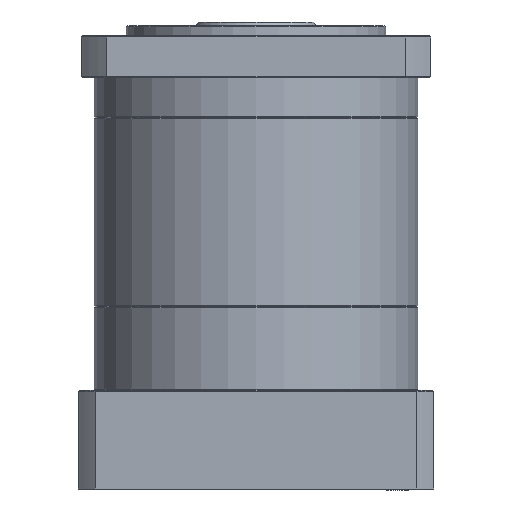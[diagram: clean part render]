
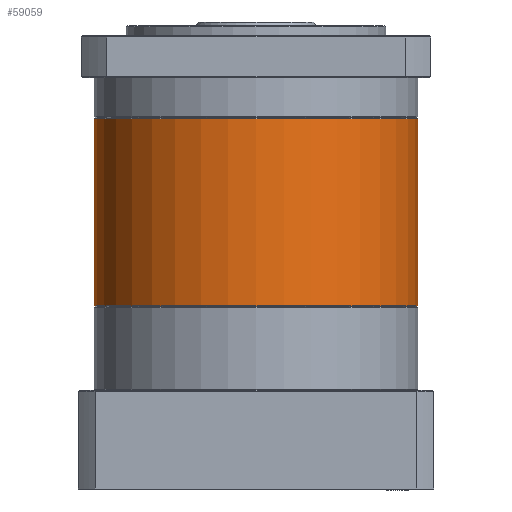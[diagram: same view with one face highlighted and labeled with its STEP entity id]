
A CAD part, front view. The second image highlights one B-rep face of the part: STEP entity #59059.
In plain terms, the highlighted cylindrical face has radius 81 mm (diameter 162 mm), a partial arc.
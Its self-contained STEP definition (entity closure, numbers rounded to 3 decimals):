
#1769 = CARTESIAN_POINT ( 'NONE',  ( 277.446, 56.633, 115.988 ) ) ;
#2444 = ORIENTED_EDGE ( 'NONE', *, *, #84965, .T. ) ;
#3225 = LINE ( 'NONE', #19636, #12246 ) ;
#3460 = CARTESIAN_POINT ( 'NONE',  ( 196.446, 56.633, 22.488 ) ) ;
#3782 = DIRECTION ( 'NONE',  ( 1., 0., 0. ) ) ;
#5190 = DIRECTION ( 'NONE',  ( 1., 0., 0. ) ) ;
#5354 = EDGE_CURVE ( 'NONE', #35512, #59551, #3225, .T. ) ;
#6204 = CARTESIAN_POINT ( 'NONE',  ( 277.446, 56.633, 21.988 ) ) ;
#7292 = AXIS2_PLACEMENT_3D ( 'NONE', #3460, #53809, #3782 ) ;
#7870 = ORIENTED_EDGE ( 'NONE', *, *, #56813, .T. ) ;
#12246 = VECTOR ( 'NONE', #48497, 1000. ) ;
#12577 = DIRECTION ( 'NONE',  ( 0., 0., 1. ) ) ;
#16507 = CIRCLE ( 'NONE', #38158, 81. ) ;
#19636 = CARTESIAN_POINT ( 'NONE',  ( 115.446, 56.633, 21.988 ) ) ;
#19941 = CARTESIAN_POINT ( 'NONE',  ( 115.446, 56.633, 115.988 ) ) ;
#20846 = AXIS2_PLACEMENT_3D ( 'NONE', #26434, #12577, #91085 ) ;
#21207 = VECTOR ( 'NONE', #70305, 1000. ) ;
#26434 = CARTESIAN_POINT ( 'NONE',  ( 196.446, 56.633, 21.988 ) ) ;
#32132 = FACE_OUTER_BOUND ( 'NONE', #83456, .T. ) ;
#35512 = VERTEX_POINT ( 'NONE', #74604 ) ;
#38125 = LINE ( 'NONE', #6204, #21207 ) ;
#38158 = AXIS2_PLACEMENT_3D ( 'NONE', #55535, #69611, #5190 ) ;
#41324 = VERTEX_POINT ( 'NONE', #1769 ) ;
#46628 = EDGE_CURVE ( 'NONE', #51437, #41324, #38125, .T. ) ;
#48497 = DIRECTION ( 'NONE',  ( 0., 0., 1. ) ) ;
#51437 = VERTEX_POINT ( 'NONE', #65226 ) ;
#53809 = DIRECTION ( 'NONE',  ( 0., 0., 1. ) ) ;
#55535 = CARTESIAN_POINT ( 'NONE',  ( 196.446, 56.633, 115.988 ) ) ;
#56813 = EDGE_CURVE ( 'NONE', #35512, #51437, #88315, .T. ) ;
#59059 = ADVANCED_FACE ( 'NONE', ( #32132 ), #74782, .T. ) ;
#59551 = VERTEX_POINT ( 'NONE', #19941 ) ;
#65221 = ORIENTED_EDGE ( 'NONE', *, *, #5354, .F. ) ;
#65226 = CARTESIAN_POINT ( 'NONE',  ( 277.446, 56.633, 22.488 ) ) ;
#65925 = ORIENTED_EDGE ( 'NONE', *, *, #46628, .T. ) ;
#69611 = DIRECTION ( 'NONE',  ( 0., 0., -1. ) ) ;
#70305 = DIRECTION ( 'NONE',  ( 0., 0., 1. ) ) ;
#74604 = CARTESIAN_POINT ( 'NONE',  ( 115.446, 56.633, 22.488 ) ) ;
#74782 = CYLINDRICAL_SURFACE ( 'NONE', #20846, 81. ) ;
#83456 = EDGE_LOOP ( 'NONE', ( #65221, #7870, #65925, #2444 ) ) ;
#84965 = EDGE_CURVE ( 'NONE', #41324, #59551, #16507, .T. ) ;
#88315 = CIRCLE ( 'NONE', #7292, 81. ) ;
#91085 = DIRECTION ( 'NONE',  ( 1., 0., 0. ) ) ;
